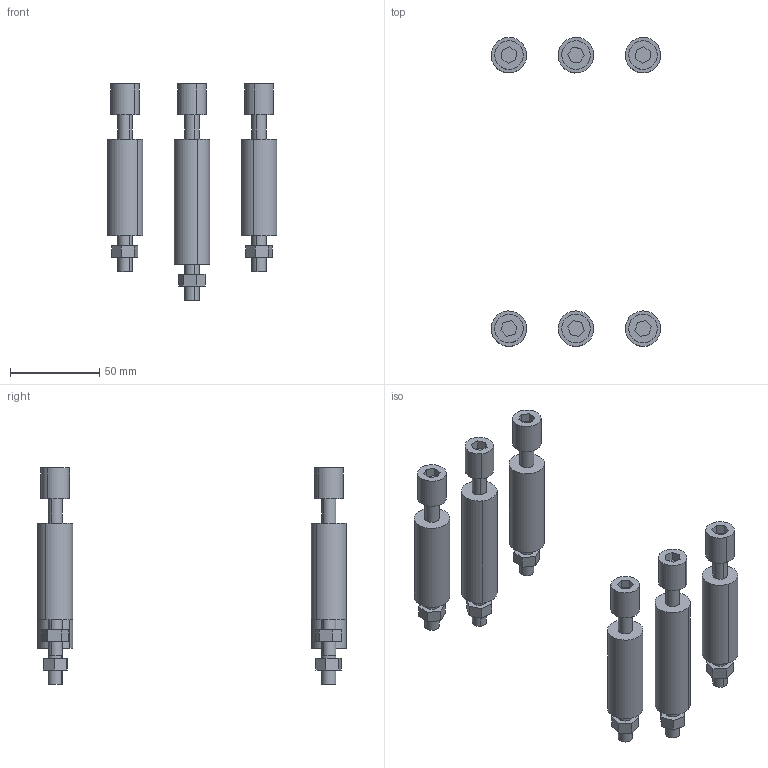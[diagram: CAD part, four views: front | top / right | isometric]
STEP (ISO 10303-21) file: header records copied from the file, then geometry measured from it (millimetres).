
FILE_DESCRIPTION (( 'STEP AP214' ), '1' );
FILE_NAME ('ÂÀ57-35 Êîìïëåêò çàæèìîâ ¹12 (øïèëüêè).STEP', '2023-07-14T08:00:51', ( '' ), ( '' ), 'SwSTEP 2.0', 'SolidWorks 2018', '' );
FILE_SCHEMA (( 'AUTOMOTIVE_DESIGN' ));
Length unit declared in the file: millimetre
Products named in the file (1): ÂÀ57-35 Êîìïëåêò çàæèìîâ ¹12 (øïèëüêè)
Bounding box: 94.77 x 172.78 x 121 mm (x, y, z)
Volume: 142642.5 mm3; surface area: 40694.1 mm2
Topology: 6 solids, 6 shells, 180 faces, 396 edges, 264 vertices
Faces by surface type: plane 120, cylinder 60
Entity records: 7019 total; most frequent: DIRECTION 878, CARTESIAN_POINT 841, ORIENTED_EDGE 792, EDGE_CURVE 396, AXIS2_PLACEMENT_3D 301, LINE 276, VECTOR 276, VERTEX_POINT 264
